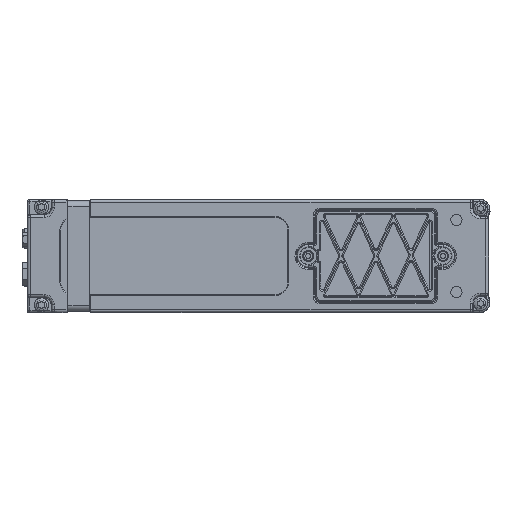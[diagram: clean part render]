
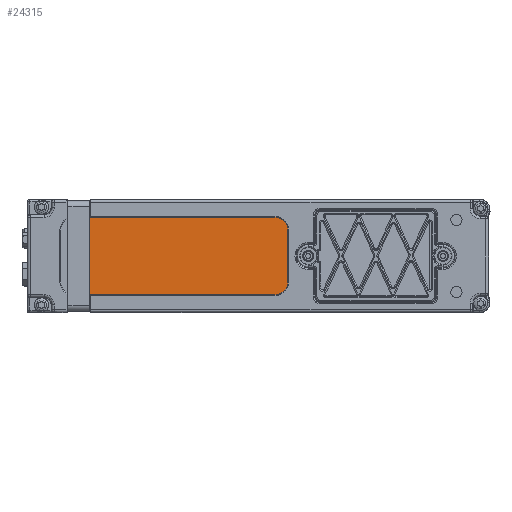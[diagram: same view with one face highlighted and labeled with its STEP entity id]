
A CAD part, front view. The second image highlights one B-rep face of the part: STEP entity #24315.
In plain terms, the highlighted planar face has unit normal (0, -1, 0).
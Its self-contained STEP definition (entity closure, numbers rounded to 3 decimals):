
#24315=ADVANCED_FACE('',(#28946),#27313,.F.);
#27313=PLANE('',#82367);
#28946=FACE_OUTER_BOUND('',#32431,.T.);
#32431=EDGE_LOOP('',(#41101,#41102,#41103,#41104,#41105,#41106,#41107,#41108));
#35088=ELLIPSE('',#82365,0.3,0.3);
#35089=ELLIPSE('',#82366,0.3,0.3);
#41101=ORIENTED_EDGE('',*,*,#61334,.F.);
#41102=ORIENTED_EDGE('',*,*,#61335,.T.);
#41103=ORIENTED_EDGE('',*,*,#61336,.T.);
#41104=ORIENTED_EDGE('',*,*,#61337,.T.);
#41105=ORIENTED_EDGE('',*,*,#61338,.T.);
#41106=ORIENTED_EDGE('',*,*,#61327,.T.);
#41107=ORIENTED_EDGE('',*,*,#61339,.F.);
#41108=ORIENTED_EDGE('',*,*,#61331,.T.);
#55148=VERTEX_POINT('',#114436);
#55150=VERTEX_POINT('',#114440);
#55152=VERTEX_POINT('',#114445);
#55154=VERTEX_POINT('',#114449);
#55156=VERTEX_POINT('',#114455);
#55157=VERTEX_POINT('',#114459);
#55158=VERTEX_POINT('',#114461);
#55159=VERTEX_POINT('',#114463);
#61327=EDGE_CURVE('',#55148,#55150,#67114,.T.);
#61331=EDGE_CURVE('',#55152,#55154,#67116,.T.);
#61334=EDGE_CURVE('',#55156,#55154,#73955,.T.);
#61335=EDGE_CURVE('',#55156,#55157,#35088,.T.);
#61336=EDGE_CURVE('',#55157,#55158,#73956,.T.);
#61337=EDGE_CURVE('',#55158,#55159,#35089,.T.);
#61338=EDGE_CURVE('',#55159,#55148,#73957,.T.);
#61339=EDGE_CURVE('',#55152,#55150,#73958,.T.);
#67114=CIRCLE('',#82359,5.);
#67116=CIRCLE('',#82362,5.);
#73955=LINE('',#114456,#78038);
#73956=LINE('',#114460,#78039);
#73957=LINE('',#114464,#78040);
#73958=LINE('',#114465,#78041);
#78038=VECTOR('',#92133,1.);
#78039=VECTOR('',#92138,1.);
#78040=VECTOR('',#92141,1.);
#78041=VECTOR('',#92142,1.);
#82359=AXIS2_PLACEMENT_3D('',#114441,#92119,#92120);
#82362=AXIS2_PLACEMENT_3D('',#114450,#92127,#92128);
#82365=AXIS2_PLACEMENT_3D('',#114458,#92136,#92137);
#82366=AXIS2_PLACEMENT_3D('',#114462,#92139,#92140);
#82367=AXIS2_PLACEMENT_3D('',#114466,#92143,#92144);
#92119=DIRECTION('',(0.,-1.,0.));
#92120=DIRECTION('',(-1.,0.,0.));
#92127=DIRECTION('',(0.,-1.,0.));
#92128=DIRECTION('',(-1.,0.,0.));
#92133=DIRECTION('',(1.,0.,0.));
#92136=DIRECTION('',(0.,1.,0.));
#92137=DIRECTION('',(0.,0.,1.));
#92138=DIRECTION('',(0.,0.,-1.));
#92139=DIRECTION('',(0.,1.,0.));
#92140=DIRECTION('',(0.,0.,1.));
#92141=DIRECTION('',(1.,0.,0.));
#92142=DIRECTION('',(0.,0.,-1.));
#92143=DIRECTION('',(0.,1.,0.));
#92144=DIRECTION('',(-1.,0.,0.));
#114436=CARTESIAN_POINT('',(-70.35,0.8,-1.001));
#114440=CARTESIAN_POINT('',(-65.35,0.8,4.));
#114441=CARTESIAN_POINT('',(-70.35,0.8,3.999));
#114445=CARTESIAN_POINT('',(-65.35,0.8,24.));
#114449=CARTESIAN_POINT('',(-70.35,0.8,28.999));
#114450=CARTESIAN_POINT('',(-70.35,0.8,23.999));
#114455=CARTESIAN_POINT('',(-141.8,0.8,28.999));
#114456=CARTESIAN_POINT('',(-153.35,0.8,28.999));
#114458=CARTESIAN_POINT('',(-141.8,0.8,29.299));
#114459=CARTESIAN_POINT('',(-142.1,0.8,29.299));
#114460=CARTESIAN_POINT('',(-142.1,0.8,28.999));
#114461=CARTESIAN_POINT('',(-142.1,0.8,-1.301));
#114462=CARTESIAN_POINT('',(-141.8,0.8,-1.301));
#114463=CARTESIAN_POINT('',(-141.8,0.8,-1.001));
#114464=CARTESIAN_POINT('',(-153.35,0.8,-1.001));
#114465=CARTESIAN_POINT('',(-65.35,0.8,29.));
#114466=CARTESIAN_POINT('',(-153.35,0.8,28.999));
